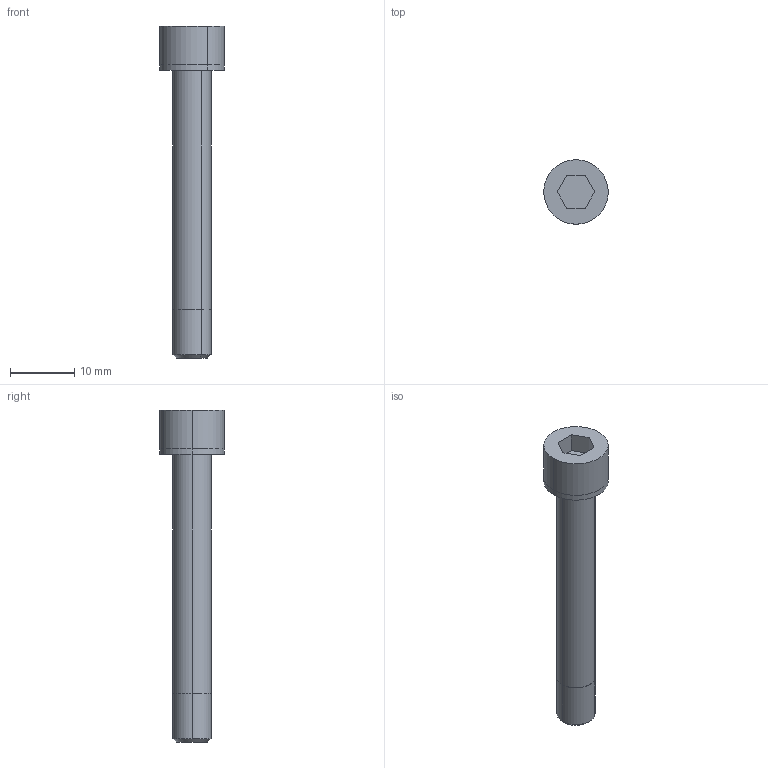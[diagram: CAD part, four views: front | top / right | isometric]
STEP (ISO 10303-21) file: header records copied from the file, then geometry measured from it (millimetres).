
FILE_DESCRIPTION(('STEP AP214'),'1');
FILE_NAME('EGT202_1720323_PASSSCHRAUBE_M6X46.CATPart.stp','2015-09-14T13:12:56',('3D-Tool'),(' '),'Spatial InterOp 3D',' ',' ');
FILE_SCHEMA(('automotive_design'));
Length unit declared in the file: millimetre
Products named in the file (2): EGT202_1720323_PASSSCHRAUBE_M6X46|EGT202|Funktionsteil; EGT202_1720323_PASSSCHRAUBE_M6X46|Scheibe VS|Funktionsteil
Bounding box: 10 x 10 x 51.5 mm (x, y, z)
Volume: 1725.3 mm3; surface area: 1386.2 mm2
Topology: 2 solids, 2 shells, 36 faces, 85 edges, 56 vertices
Faces by surface type: cylinder 20, plane 13, cone 3
Entity records: 1397 total; most frequent: DIRECTION 205, CARTESIAN_POINT 179, ORIENTED_EDGE 170, EDGE_CURVE 85, AXIS2_PLACEMENT_3D 82, VERTEX_POINT 56, CIRCLE 44, EDGE_LOOP 41
